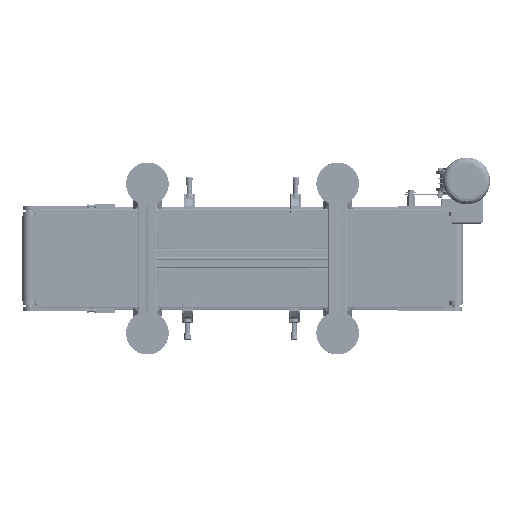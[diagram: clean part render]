
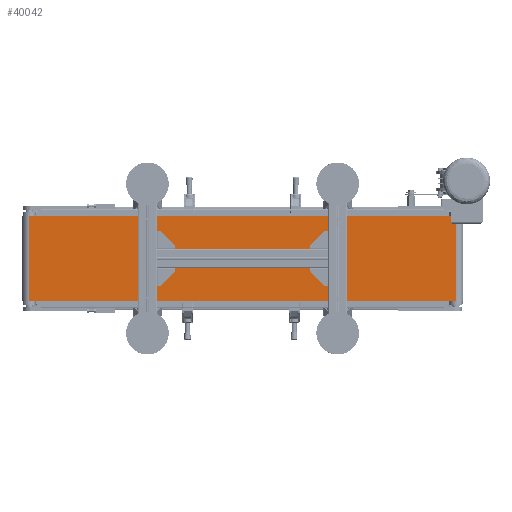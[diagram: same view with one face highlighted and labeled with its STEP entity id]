
A CAD part, front view. The second image highlights one B-rep face of the part: STEP entity #40042.
In plain terms, the highlighted planar face has unit normal (0, -1, 0).
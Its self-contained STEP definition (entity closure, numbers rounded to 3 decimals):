
#9715 = VECTOR ( 'NONE', #57364, 1000. ) ;
#9840 = EDGE_CURVE ( 'NONE', #37048, #20508, #87665, .T. ) ;
#11325 = CARTESIAN_POINT ( 'NONE',  ( -500., -17., -100. ) ) ;
#20355 = ORIENTED_EDGE ( 'NONE', *, *, #9840, .F. ) ;
#20508 = VERTEX_POINT ( 'NONE', #62229 ) ;
#35236 = VECTOR ( 'NONE', #63072, 1000. ) ;
#36517 = EDGE_CURVE ( 'NONE', #43494, #20508, #64695, .T. ) ;
#37048 = VERTEX_POINT ( 'NONE', #65089 ) ;
#37527 = ORIENTED_EDGE ( 'NONE', *, *, #71010, .F. ) ;
#39678 = DIRECTION ( 'NONE',  ( 0., 0., -1. ) ) ;
#40042 = ADVANCED_FACE ( 'NONE', ( #106004 ), #81605, .F. ) ;
#42512 = EDGE_CURVE ( 'NONE', #55995, #43494, #58822, .T. ) ;
#43494 = VERTEX_POINT ( 'NONE', #11325 ) ;
#46916 = ORIENTED_EDGE ( 'NONE', *, *, #42512, .T. ) ;
#49355 = CARTESIAN_POINT ( 'NONE',  ( -500., -17., 100. ) ) ;
#52909 = CARTESIAN_POINT ( 'NONE',  ( -500., -17., -100. ) ) ;
#53788 = AXIS2_PLACEMENT_3D ( 'NONE', #58008, #153942, #142197 ) ;
#55995 = VERTEX_POINT ( 'NONE', #66223 ) ;
#57364 = DIRECTION ( 'NONE',  ( 1., 0., 0. ) ) ;
#58008 = CARTESIAN_POINT ( 'NONE',  ( -500., -17., 100. ) ) ;
#58822 = LINE ( 'NONE', #49355, #121118 ) ;
#62229 = CARTESIAN_POINT ( 'NONE',  ( 500., -17., -100. ) ) ;
#63072 = DIRECTION ( 'NONE',  ( 1., 0., 0. ) ) ;
#64627 = LINE ( 'NONE', #111842, #35236 ) ;
#64695 = LINE ( 'NONE', #52909, #9715 ) ;
#65089 = CARTESIAN_POINT ( 'NONE',  ( 500., -17., 100. ) ) ;
#66223 = CARTESIAN_POINT ( 'NONE',  ( -500., -17., 100. ) ) ;
#71010 = EDGE_CURVE ( 'NONE', #55995, #37048, #64627, .T. ) ;
#80540 = EDGE_LOOP ( 'NONE', ( #129855, #20355, #37527, #46916 ) ) ;
#81287 = VECTOR ( 'NONE', #39678, 1000. ) ;
#81605 = PLANE ( 'NONE',  #53788 ) ;
#87665 = LINE ( 'NONE', #136398, #81287 ) ;
#106004 = FACE_OUTER_BOUND ( 'NONE', #80540, .T. ) ;
#111842 = CARTESIAN_POINT ( 'NONE',  ( -500., -17., 100. ) ) ;
#121118 = VECTOR ( 'NONE', #145328, 1000. ) ;
#129855 = ORIENTED_EDGE ( 'NONE', *, *, #36517, .T. ) ;
#136398 = CARTESIAN_POINT ( 'NONE',  ( 500., -17., 100. ) ) ;
#142197 = DIRECTION ( 'NONE',  ( 0., 0., 1. ) ) ;
#145328 = DIRECTION ( 'NONE',  ( 0., 0., -1. ) ) ;
#153942 = DIRECTION ( 'NONE',  ( 0., 1., 0. ) ) ;
